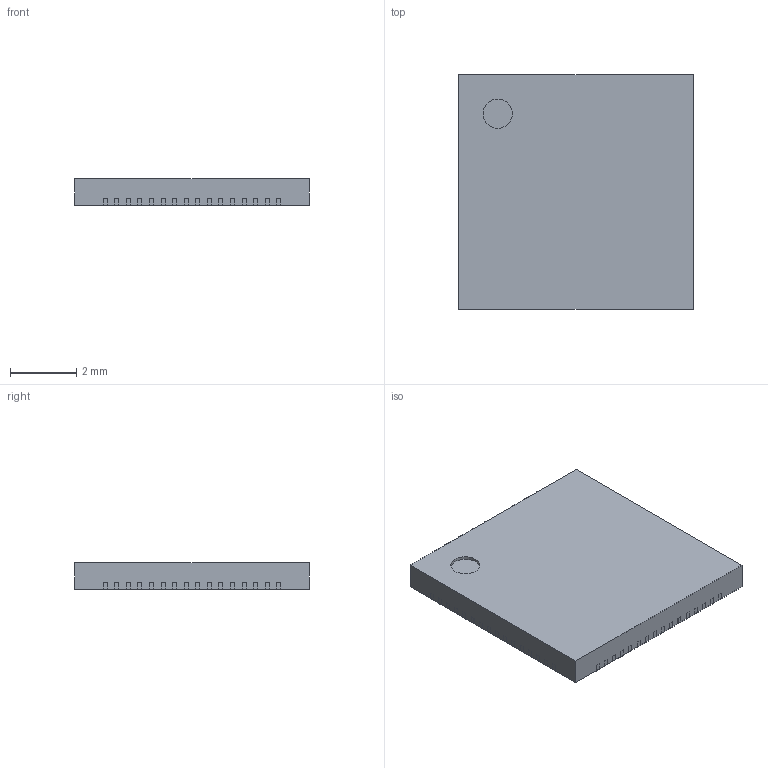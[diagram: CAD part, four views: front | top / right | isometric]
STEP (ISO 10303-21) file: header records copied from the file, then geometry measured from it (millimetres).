
FILE_DESCRIPTION(('Open CASCADE Model'),'2;1');
FILE_NAME('Open CASCADE Shape Model','2022-11-15T19:37:30',('Author'),( 'Open CASCADE'),'Open CASCADE STEP processor 6.8','Open CASCADE 6.8' ,'Unknown');
FILE_SCHEMA(('AUTOMOTIVE_DESIGN { 1 0 10303 214 1 1 1 1 }'));
Length unit declared in the file: millimetre
Products named in the file (7): QFN35P700X700X80_HS-65N.step; Open CASCADE STEP translator 6.8 102.1; Body; Open CASCADE STEP translator 6.8 102.2.1; Thermal_Shape; Pin_Shape; Open CASCADE STEP translator 6.8 102.4.1
Assembly tree (69 placements, depth 3):
  QFN35P700X700X80_HS-65N.step
    Open CASCADE STEP translator 6.8 102.1
    Body
      Open CASCADE STEP translator 6.8 102.2.1
    Thermal_Shape
    Pin_Shape  x64
      Open CASCADE STEP translator 6.8 102.4.1
Bounding box: 7.1 x 7.1 x 0.8 mm (x, y, z)
Volume: 40.3 mm3; surface area: 166 mm2
Topology: 66 solids, 67 shells, 912 faces, 1823 edges, 1045 vertices
Faces by surface type: plane 911, cylinder 1
Full cylindrical faces by diameter (mm): 0.887 x1
Entity records: 1410 total; most frequent: DIRECTION 262, CARTESIAN_POINT 196, ORIENTED_EDGE 117, AXIS2_PLACEMENT_3D 103, PRODUCT_DEFINITION_SHAPE 76, CONTEXT_DEPENDENT_SHAPE_REPRESENTATION 69, ITEM_DEFINED_TRANSFORMATION 69, NEXT_ASSEMBLY_USAGE_OCCURRENCE 69
